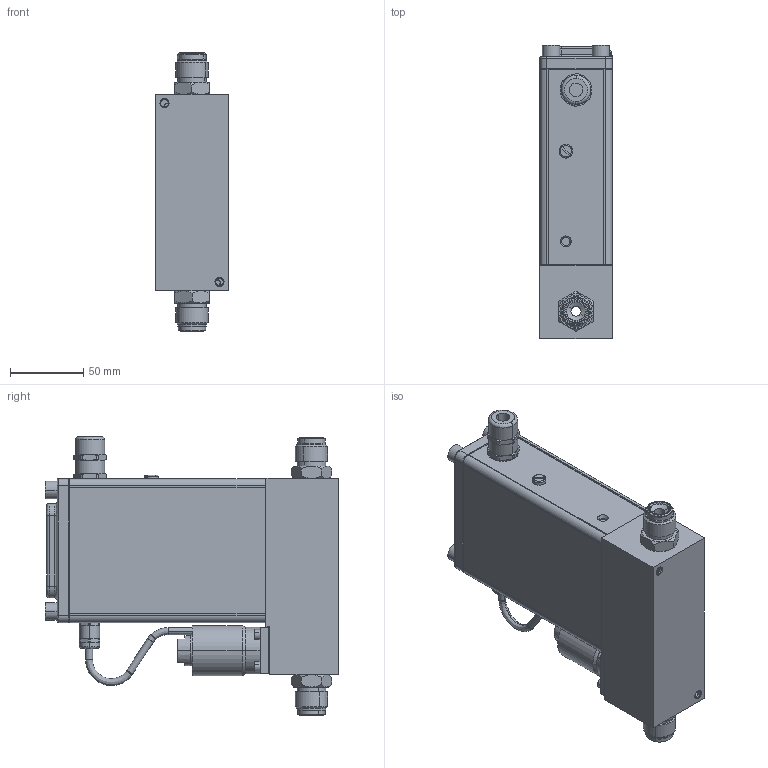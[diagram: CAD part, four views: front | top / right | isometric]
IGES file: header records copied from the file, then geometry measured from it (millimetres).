
Start section: SolidWorks IGES file using analytic representation for surfaces
Global section: file name: G:\Engineering\CAD MODELS FOR SALES\CAD MODEL STORAGE\SLA\SLAMF50\CUSTOMER FILES\IGES\SLAMF50-S-1L-1-F-REVB.IGS; native system: SolidWorks 2020; preprocessor: SolidWorks 2020; author: CFehr; date: 210107.094916; units: millimetre
Bounding box: 49.5 x 199.98 x 190.15 mm (x, y, z)
Volume: 454464 mm3; surface area: 206248.8 mm2
Topology: 37 solids, 37 shells, 902 faces, 2122 edges, 1341 vertices
Faces by surface type: revolution 482, plane 333, bspline 87
